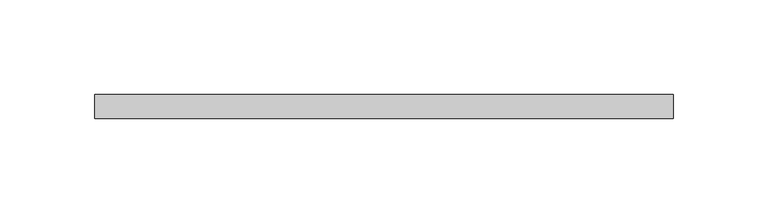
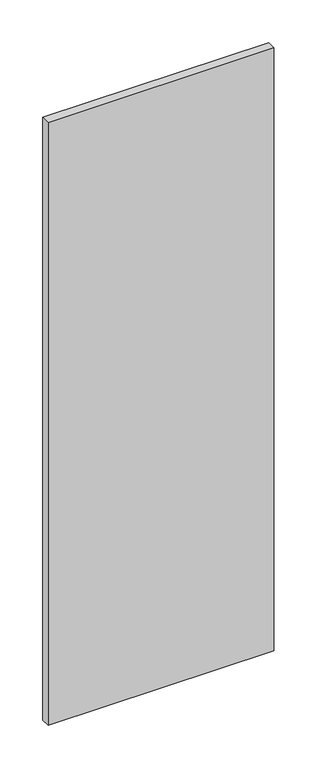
"""IFC4 building model written with IfcOpenShell, lengths in millimetres: proxy geometry, LIVERS_RZR - Glass Panel : LIVERS_RZR - Glass Panel."""

from ifc_helpers import new_model, si_unit, frame, origin, place, context, project, spatial, polyline, outline, extrude, source, transform, mapped, element, save


def building_element_proxy_b2e02714(model_context):
    return source(origin(), model_context, "Body", "SweptSolid", [
        extrude(outline(polyline([(772.6154299, 1.5872342), (466.3924724, 1.5872342), (466.3924724, 14.2874305), (772.6154299, 14.2874305), (772.6154299, 1.5872342)])), frame((0.0, 0.0, 114.3), z_axis=(0.0, 0.0, 1.0), x_axis=(1.0, 0.0, 0.0)), (0.0, 0.0, 1.0), 863.6),
    ])


if __name__ == "__main__":
    model = new_model("IFC4")
    model_context = context("Model", 3, world=origin())
    ifc_project = project(units=[si_unit("LENGTHUNIT", "METRE", prefix="MILLI")], contexts=[model_context])
    site = spatial("IfcSite", under=ifc_project)
    building = spatial("IfcBuilding", under=site)
    placement = place(None, origin())
    building_element_proxy_shape = building_element_proxy_b2e02714(model_context)
    element("IfcBuildingElementProxy", 1, Name="LIVERS_RZR - Glass Panel : LIVERS_RZR - Glass Panel", ObjectType="LIVERS_RZR - Glass Panel : LIVERS_RZR - Glass Panel", at=placement, inside=building, context=model_context, shape_type="MappedRepresentation", body=[
        mapped(building_element_proxy_shape, transform((0.0, 0.0, 0.0), x_axis=(1.0, 0.0, 0.0), y_axis=(0.0, 1.0, 0.0), z_axis=(0.0, 0.0, 1.0))),
    ])
    save(model, "model.ifc")
